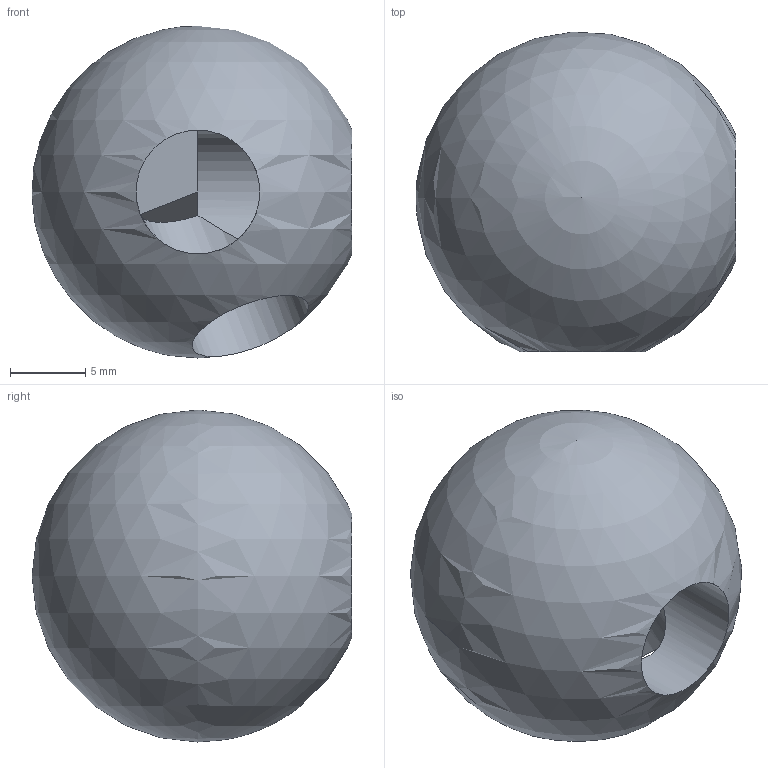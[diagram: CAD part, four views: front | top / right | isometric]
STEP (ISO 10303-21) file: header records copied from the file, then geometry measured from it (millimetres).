
FILE_DESCRIPTION(('Open CASCADE Model'),'2;1');
FILE_NAME('Open CASCADE Shape Model','2026-10-06T19:56:09',('Author'),( 'Open CASCADE'),'Open CASCADE STEP processor 7.9','Open CASCADE 7.9' ,'Unknown');
FILE_SCHEMA(('AUTOMOTIVE_DESIGN { 1 0 10303 214 1 1 1 1 }'));
Length unit declared in the file: millimetre
Products named in the file (1): Open CASCADE STEP translator 7.9 17
Bounding box: 21.2 x 21.19 x 22 mm (x, y, z)
Volume: 4187.6 mm3; surface area: 1975.5 mm2
Topology: 1 solids, 1 shells, 7 faces, 23 edges, 15 vertices
Faces by surface type: cylinder 3, plane 3, sphere 1
Full cylindrical faces by diameter (mm): 8.2 x3
Entity records: 831 total; most frequent: CARTESIAN_POINT 436, DIRECTION 70, ORIENTED_EDGE 40, PCURVE 40, DEFINITIONAL_REPRESENTATION 40, LINE 26, VECTOR 26, AXIS2_PLACEMENT_3D 22
